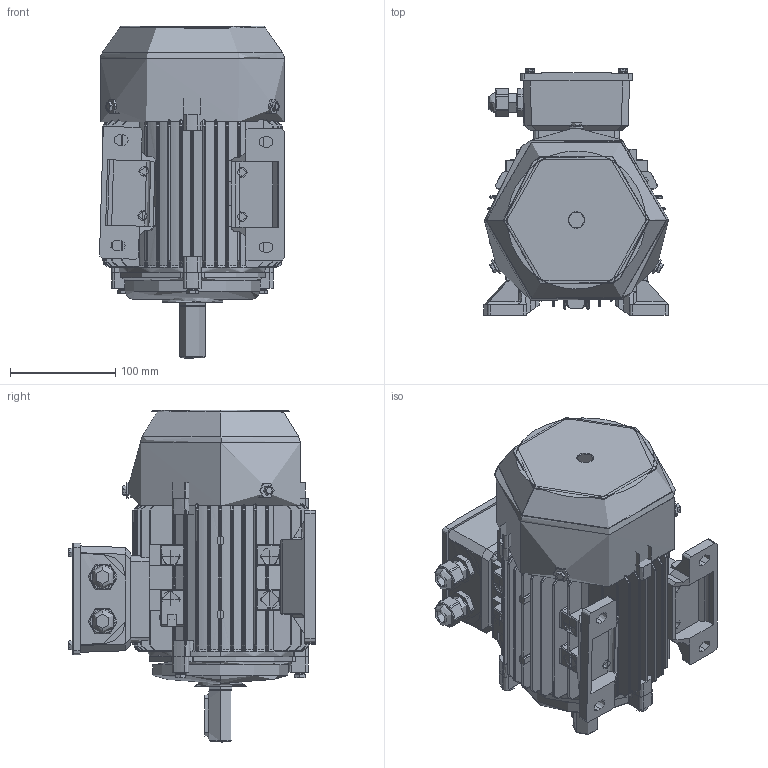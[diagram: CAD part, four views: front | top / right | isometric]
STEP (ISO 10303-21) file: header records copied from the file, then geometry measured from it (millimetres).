
FILE_DESCRIPTION (( 'STEP AP203' ), '1' );
FILE_NAME ('90SB3.STEP', '2019-11-29T11:40:59', ( '' ), ( '' ), 'SwSTEP 2.0', 'SolidWorks 2013', '' );
FILE_SCHEMA (( 'CONFIG_CONTROL_DESIGN' ));
Products named in the file (1): 90SB3
Bounding box: 175.42 x 233.79 x 314.85 mm (x, y, z)
Topology: 0 solids, 55 shells, 1945 faces, 5644 edges, 3712 vertices
Faces by surface type: cylinder 765, plane 743, bspline 322, cone 115
Full cylindrical faces by diameter (mm): 7 x1
Entity records: 101537 total; most frequent: CARTESIAN_POINT 54420, ORIENTED_EDGE 10069, DIRECTION 8537, EDGE_CURVE 5638, VERTEX_POINT 3713, AXIS2_PLACEMENT_3D 2902, VECTOR 2733, LINE 2733
